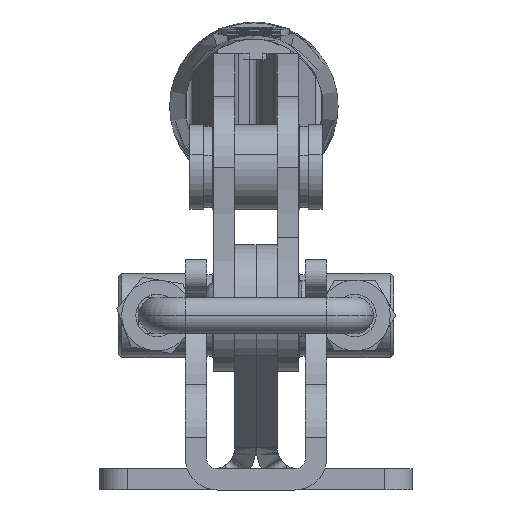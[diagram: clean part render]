
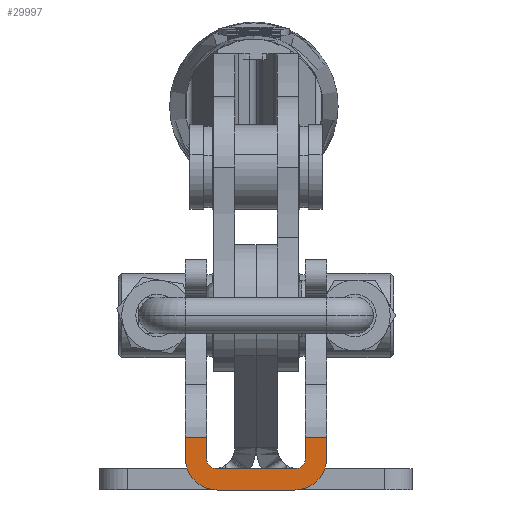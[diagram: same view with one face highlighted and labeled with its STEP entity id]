
A CAD part, left-side view. The second image highlights one B-rep face of the part: STEP entity #29997.
In plain terms, the highlighted planar face has unit normal (-1, 0, 0).
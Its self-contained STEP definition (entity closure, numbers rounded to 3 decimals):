
#297 = DIRECTION ( 'NONE',  ( 1., 0., 0. ) ) ;
#350 = VECTOR ( 'NONE', #30053, 1000. ) ;
#376 = VECTOR ( 'NONE', #387, 1000. ) ;
#387 = DIRECTION ( 'NONE',  ( 0., 1., 0. ) ) ;
#409 = VECTOR ( 'NONE', #30480, 1000. ) ;
#465 = EDGE_CURVE ( 'NONE', #29617, #18690, #2001, .T. ) ;
#577 = ORIENTED_EDGE ( 'NONE', *, *, #27722, .F. ) ;
#874 = CIRCLE ( 'NONE', #5622, 1.5 ) ;
#1153 = CARTESIAN_POINT ( 'NONE',  ( 1893.108, 69.576, 107.474 ) ) ;
#1507 = DIRECTION ( 'NONE',  ( 0., 0., -1. ) ) ;
#1558 = CIRCLE ( 'NONE', #31051, 4.5 ) ;
#1707 = DIRECTION ( 'NONE',  ( 0., -1., 0. ) ) ;
#1709 = VERTEX_POINT ( 'NONE', #9595 ) ;
#2001 = LINE ( 'NONE', #32184, #10876 ) ;
#2379 = CARTESIAN_POINT ( 'NONE',  ( 1893.108, 86.576, 107.474 ) ) ;
#2939 = ORIENTED_EDGE ( 'NONE', *, *, #8695, .F. ) ;
#3515 = AXIS2_PLACEMENT_3D ( 'NONE', #19094, #21254, #31314 ) ;
#4406 = CARTESIAN_POINT ( 'NONE',  ( 1893.108, 74.076, 103. ) ) ;
#4530 = ORIENTED_EDGE ( 'NONE', *, *, #27047, .T. ) ;
#4738 = ORIENTED_EDGE ( 'NONE', *, *, #23266, .F. ) ;
#4812 = VERTEX_POINT ( 'NONE', #13586 ) ;
#5165 = PLANE ( 'NONE',  #20367 ) ;
#5345 = LINE ( 'NONE', #7322, #350 ) ;
#5622 = AXIS2_PLACEMENT_3D ( 'NONE', #24506, #19204, #7036 ) ;
#6404 = CARTESIAN_POINT ( 'NONE',  ( 1893.108, 85.076, 100. ) ) ;
#6849 = ORIENTED_EDGE ( 'NONE', *, *, #25818, .T. ) ;
#7036 = DIRECTION ( 'NONE',  ( 0., 0., 1. ) ) ;
#7322 = CARTESIAN_POINT ( 'NONE',  ( 1893.108, 84.576, 103. ) ) ;
#8695 = EDGE_CURVE ( 'NONE', #9496, #29443, #12675, .T. ) ;
#9496 = VERTEX_POINT ( 'NONE', #1153 ) ;
#9543 = EDGE_LOOP ( 'NONE', ( #2939, #13302, #23214, #12945, #25895, #4530, #6849, #4738, #577, #11433, #16048, #11638 ) ) ;
#9595 = CARTESIAN_POINT ( 'NONE',  ( 1893.108, 89.576, 107.474 ) ) ;
#10147 = LINE ( 'NONE', #30252, #31702 ) ;
#10540 = CARTESIAN_POINT ( 'NONE',  ( 1893.108, 74.076, 104.5 ) ) ;
#10876 = VECTOR ( 'NONE', #1507, 1000. ) ;
#11334 = LINE ( 'NONE', #23727, #22957 ) ;
#11433 = ORIENTED_EDGE ( 'NONE', *, *, #12157, .F. ) ;
#11638 = ORIENTED_EDGE ( 'NONE', *, *, #30549, .F. ) ;
#12157 = EDGE_CURVE ( 'NONE', #17066, #21664, #1558, .T. ) ;
#12609 = DIRECTION ( 'NONE',  ( 0., -1., 0. ) ) ;
#12675 = LINE ( 'NONE', #15476, #409 ) ;
#12945 = ORIENTED_EDGE ( 'NONE', *, *, #26487, .T. ) ;
#13302 = ORIENTED_EDGE ( 'NONE', *, *, #31782, .F. ) ;
#13586 = CARTESIAN_POINT ( 'NONE',  ( 1893.108, 86.576, 104.5 ) ) ;
#13849 = CARTESIAN_POINT ( 'NONE',  ( 1893.108, 74.076, 100. ) ) ;
#14741 = CARTESIAN_POINT ( 'NONE',  ( 1893.108, 69.576, 104.5 ) ) ;
#15331 = DIRECTION ( 'NONE',  ( 1., 0., 0. ) ) ;
#15363 = CARTESIAN_POINT ( 'NONE',  ( 1893.108, 72.576, 100. ) ) ;
#15469 = VERTEX_POINT ( 'NONE', #4406 ) ;
#15476 = CARTESIAN_POINT ( 'NONE',  ( 1893.108, 69.576, 100. ) ) ;
#15489 = CARTESIAN_POINT ( 'NONE',  ( 1893.108, 72.576, 104.5 ) ) ;
#16048 = ORIENTED_EDGE ( 'NONE', *, *, #24717, .F. ) ;
#16281 = DIRECTION ( 'NONE',  ( 0., 0., 1. ) ) ;
#17066 = VERTEX_POINT ( 'NONE', #6404 ) ;
#17776 = DIRECTION ( 'NONE',  ( 0., 0., 1. ) ) ;
#18343 = LINE ( 'NONE', #25950, #376 ) ;
#18473 = VECTOR ( 'NONE', #1707, 1000. ) ;
#18690 = VERTEX_POINT ( 'NONE', #15489 ) ;
#18842 = LINE ( 'NONE', #26937, #18473 ) ;
#19094 = CARTESIAN_POINT ( 'NONE',  ( 1893.108, 85.076, 104.5 ) ) ;
#19204 = DIRECTION ( 'NONE',  ( 1., 0., 0. ) ) ;
#19285 = CARTESIAN_POINT ( 'NONE',  ( 1893.108, 89.576, 104.5 ) ) ;
#20016 = CARTESIAN_POINT ( 'NONE',  ( 1893.108, 89.576, 100. ) ) ;
#20147 = DIRECTION ( 'NONE',  ( 0., 0., -1. ) ) ;
#20309 = DIRECTION ( 'NONE',  ( 1., 0., 0. ) ) ;
#20367 = AXIS2_PLACEMENT_3D ( 'NONE', #15363, #20309, #20147 ) ;
#20908 = DIRECTION ( 'NONE',  ( 0., 0., 1. ) ) ;
#21254 = DIRECTION ( 'NONE',  ( 1., 0., 0. ) ) ;
#21664 = VERTEX_POINT ( 'NONE', #19285 ) ;
#22488 = CIRCLE ( 'NONE', #3515, 1.5 ) ;
#22491 = DIRECTION ( 'NONE',  ( 0., 0., 1. ) ) ;
#22750 = CARTESIAN_POINT ( 'NONE',  ( 1893.108, 85.076, 104.5 ) ) ;
#22957 = VECTOR ( 'NONE', #16281, 1000. ) ;
#23214 = ORIENTED_EDGE ( 'NONE', *, *, #465, .T. ) ;
#23266 = EDGE_CURVE ( 'NONE', #1709, #29534, #18842, .T. ) ;
#23727 = CARTESIAN_POINT ( 'NONE',  ( 1893.108, 86.576, 107.474 ) ) ;
#24302 = CIRCLE ( 'NONE', #30597, 4.5 ) ;
#24506 = CARTESIAN_POINT ( 'NONE',  ( 1893.108, 74.076, 104.5 ) ) ;
#24717 = EDGE_CURVE ( 'NONE', #30344, #17066, #18343, .T. ) ;
#25100 = FACE_OUTER_BOUND ( 'NONE', #9543, .T. ) ;
#25303 = LINE ( 'NONE', #20016, #29318 ) ;
#25818 = EDGE_CURVE ( 'NONE', #4812, #29534, #11334, .T. ) ;
#25895 = ORIENTED_EDGE ( 'NONE', *, *, #27335, .F. ) ;
#25950 = CARTESIAN_POINT ( 'NONE',  ( 1893.108, 69.576, 100. ) ) ;
#26487 = EDGE_CURVE ( 'NONE', #18690, #15469, #874, .T. ) ;
#26937 = CARTESIAN_POINT ( 'NONE',  ( 1893.108, 86.576, 107.474 ) ) ;
#27047 = EDGE_CURVE ( 'NONE', #29484, #4812, #22488, .T. ) ;
#27335 = EDGE_CURVE ( 'NONE', #29484, #15469, #5345, .T. ) ;
#27722 = EDGE_CURVE ( 'NONE', #21664, #1709, #25303, .T. ) ;
#27927 = CARTESIAN_POINT ( 'NONE',  ( 1893.108, 85.076, 103. ) ) ;
#29318 = VECTOR ( 'NONE', #22491, 1000. ) ;
#29443 = VERTEX_POINT ( 'NONE', #14741 ) ;
#29484 = VERTEX_POINT ( 'NONE', #27927 ) ;
#29534 = VERTEX_POINT ( 'NONE', #2379 ) ;
#29617 = VERTEX_POINT ( 'NONE', #31371 ) ;
#29997 = ADVANCED_FACE ( 'NONE', ( #25100 ), #5165, .F. ) ;
#30053 = DIRECTION ( 'NONE',  ( 0., -1., 0. ) ) ;
#30252 = CARTESIAN_POINT ( 'NONE',  ( 1893.108, 72.576, 107.474 ) ) ;
#30344 = VERTEX_POINT ( 'NONE', #13849 ) ;
#30480 = DIRECTION ( 'NONE',  ( 0., 0., -1. ) ) ;
#30549 = EDGE_CURVE ( 'NONE', #29443, #30344, #24302, .T. ) ;
#30597 = AXIS2_PLACEMENT_3D ( 'NONE', #10540, #15331, #20908 ) ;
#31051 = AXIS2_PLACEMENT_3D ( 'NONE', #22750, #297, #17776 ) ;
#31314 = DIRECTION ( 'NONE',  ( 0., 0., 1. ) ) ;
#31371 = CARTESIAN_POINT ( 'NONE',  ( 1893.108, 72.576, 107.474 ) ) ;
#31702 = VECTOR ( 'NONE', #12609, 1000. ) ;
#31782 = EDGE_CURVE ( 'NONE', #29617, #9496, #10147, .T. ) ;
#32184 = CARTESIAN_POINT ( 'NONE',  ( 1893.108, 72.576, 107.474 ) ) ;
